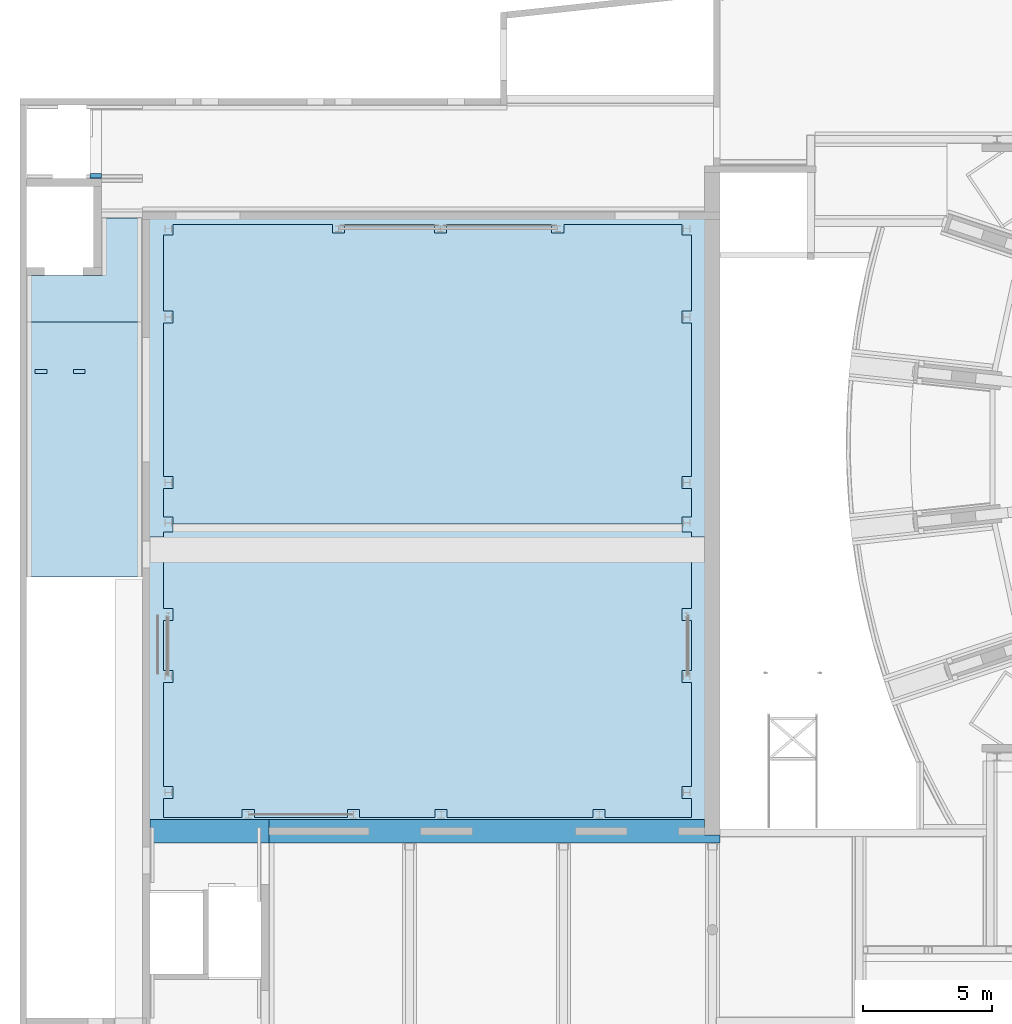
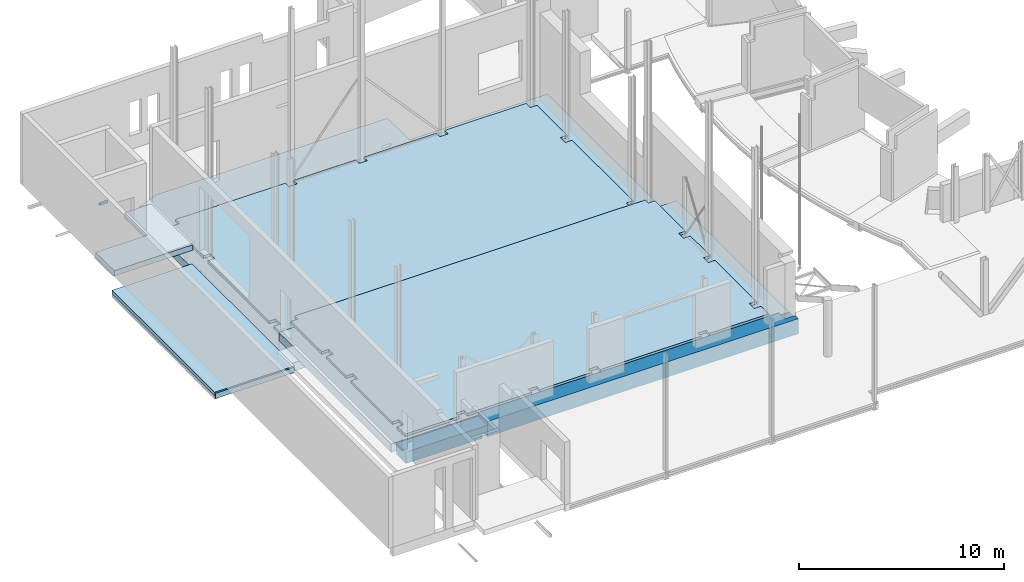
# One storey, part 22 of 37: 7 slabs, 3 beams, 2 openings.
"""IFC2X3 building model written with IfcOpenShell, lengths in millimetres."""

import ifcopenshell
import ifcopenshell.guid

model = None  # the IFC model being written
_history = None  # IfcOwnerHistory: only IFC2X3 demands one
_inside = {}  # id of a spatial element -> (the spatial element, [elements in it])
_under = {}  # id of a project, library or spatial element -> (it, [spatial elements below it])
_declared = {}  # id of a project -> (the project, [libraries it declares])
_typed = {}  # id of a type object -> (the type object, [elements of that type])
_made_of = {}  # id of a material, layer set ... -> (it, [elements and type objects made of it])


def new_model(schema):
    """Start an empty IFC model of exactly this schema.

    Asked for "IFC4X3", IfcOpenShell would pick the latest addendum, in which some entities
    have other attributes; the version numbers below select the first issue.
    IFC2X3 requires an IfcOwnerHistory on every rooted entity: one is made here for all.
    """
    global model, _history
    if schema == "IFC4X3":
        model = ifcopenshell.file(schema_version=(4, 3, 0, 0))
    else:
        model = ifcopenshell.file(schema=schema)
    _inside.clear()
    _under.clear()
    _declared.clear()
    _typed.clear()
    _made_of.clear()
    _history = None
    if model.schema == "IFC2X3":
        org = make("IfcOrganization", Name="unknown")
        user = make(
            "IfcPersonAndOrganization",
            ThePerson=make("IfcPerson", FamilyName="unknown"),
            TheOrganization=org,
        )
        app = make(
            "IfcApplication",
            ApplicationDeveloper=org,
            Version="unknown",
            ApplicationFullName="unknown",
            ApplicationIdentifier="unknown",
        )
        _history = make(
            "IfcOwnerHistory",
            OwningUser=user,
            OwningApplication=app,
            ChangeAction="ADDED",
            CreationDate=0,
        )
    return model


def make(cls, **values):
    """One entity of the class cls with the attributes given. An attribute that is None is left unset."""
    return model.create_entity(
        cls, **{name: value for name, value in values.items() if value is not None}
    )


def entity(cls, *values):
    """Any entity or typed value of the class cls, its attributes in the order of the schema. None: left unset."""
    e = model.create_entity(cls)
    for i, value in enumerate(values):
        if value is not None:
            e[i] = value
    return e


def rooted(cls, **values):
    """An entity with a GlobalId (a new one), such as an element, a storey or a relation."""
    return make(cls, GlobalId=ifcopenshell.guid.new(), OwnerHistory=_history, **values)


def si_unit(unit_type, name, prefix=None):
    """IfcSIUnit, for example si_unit("LENGTHUNIT", "METRE", prefix="MILLI")."""
    return make("IfcSIUnit", UnitType=unit_type, Prefix=prefix, Name=name)


def converted_unit(unit_type, name, factor, base, dimensions=None, offset=None):
    """IfcConversionBasedUnit, such as the inch: factor (a typed value) times the base unit."""
    return make(
        "IfcConversionBasedUnit"
        if offset is None
        else "IfcConversionBasedUnitWithOffset",
        ConversionOffset=offset,
        Dimensions=None
        if dimensions is None
        else entity("IfcDimensionalExponents", *dimensions),
        UnitType=unit_type,
        Name=name,
        ConversionFactor=make(
            "IfcMeasureWithUnit", ValueComponent=factor, UnitComponent=base
        ),
    )


def derived_unit(unit_type, elements):
    """IfcDerivedUnit: a product of units, each with its exponent."""
    return make(
        "IfcDerivedUnit",
        Elements=[
            make("IfcDerivedUnitElement", Unit=unit, Exponent=power)
            for unit, power in elements
        ],
        UnitType=unit_type,
    )


def assignment(units):
    """IfcUnitAssignment: the units of a project."""
    return None if units is None else make("IfcUnitAssignment", Units=units)


def point(xyz):
    """IfcCartesianPoint."""
    return None if xyz is None else make("IfcCartesianPoint", Coordinates=xyz)


def direction(xyz):
    """IfcDirection."""
    return None if xyz is None else make("IfcDirection", DirectionRatios=xyz)


def frame(location, z_axis=None, x_axis=None):
    """IfcAxis2Placement3D, a coordinate frame: its origin and axes. An axis left out is left unset."""
    return make(
        "IfcAxis2Placement3D",
        Location=point(location),
        Axis=direction(z_axis),
        RefDirection=direction(x_axis),
    )


def frame_2d(location, x_axis=None):
    """IfcAxis2Placement2D, a coordinate frame in the plane: its origin and x axis."""
    return make(
        "IfcAxis2Placement2D", Location=point(location), RefDirection=direction(x_axis)
    )


def origin():
    """The frame at (0, 0, 0) with its axes left unset."""
    return frame((0.0, 0.0, 0.0))


def origin_2d_with_axis():
    """The frame at (0, 0) in the plane with the x axis (1, 0) written out."""
    return frame_2d((0.0, 0.0), x_axis=(1.0, 0.0))


def place(relative_to, where):
    """IfcLocalPlacement: puts the frame where relative to a parent placement (None: the world)."""
    return make(
        "IfcLocalPlacement", PlacementRelTo=relative_to, RelativePlacement=where
    )


def context(
    kind, dimensions, precision=None, world=None, true_north=None, identifier=None
):
    """IfcGeometricRepresentationContext, for example the 3D "Model" context."""
    return make(
        "IfcGeometricRepresentationContext",
        ContextIdentifier=identifier,
        ContextType=kind,
        CoordinateSpaceDimension=dimensions,
        Precision=precision,
        WorldCoordinateSystem=world,
        TrueNorth=true_north,
    )


def subcontext(parent, identifier, kind, view, scale=None):
    """IfcGeometricRepresentationSubContext, for example "Body" below "Model"."""
    return make(
        "IfcGeometricRepresentationSubContext",
        ContextIdentifier=identifier,
        ContextType=kind,
        ParentContext=parent,
        TargetScale=scale,
        TargetView=view,
    )


def project(units=None, contexts=None):
    """IfcProject with its units and contexts."""
    return rooted(
        "IfcProject",
        Name="project",
        RepresentationContexts=contexts,
        UnitsInContext=assignment(units),
    )


def spatial(cls, under=None, at=None, **own):
    """A site, building, storey or space (cls), placed at a placement, below another one or the project."""
    s = rooted(cls, ObjectPlacement=at, **own)
    if under is not None:
        _under.setdefault(under.id(), (under, []))[1].append(s)
    return s


def polyline(points):
    """IfcPolyline through the points."""
    return make("IfcPolyline", Points=[point(p) for p in points])


def circle_curve(where, radius):
    """IfcCircle in the frame where."""
    return make("IfcCircle", Position=where, Radius=radius)


def parameter(value):
    """IfcParameterValue: where a trimmed curve begins or ends, as a parameter of its basis curve."""
    return model.create_entity("IfcParameterValue", value)


def trimmed(basis, trim1, trim2, sense, master):
    """IfcTrimmedCurve: the piece of a basis curve between two trims."""
    return make(
        "IfcTrimmedCurve",
        BasisCurve=basis,
        Trim1=trim1,
        Trim2=trim2,
        SenseAgreement=sense,
        MasterRepresentation=master,
    )


def segment(curve, same_sense, transition):
    """IfcCompositeCurveSegment."""
    return make(
        "IfcCompositeCurveSegment",
        Transition=transition,
        SameSense=same_sense,
        ParentCurve=curve,
    )


def composite_curve(segments, self_intersect=None):
    """IfcCompositeCurve: segments joined end to end."""
    return make("IfcCompositeCurve", Segments=segments, SelfIntersect=self_intersect)


def profile(cls, at=None, kind="AREA", **sizes):
    """A parametric profile (cls). Its sizes go by their IFC names, for example OverallWidth=200.0."""
    return make(cls, ProfileType=kind, Position=at, **sizes)


def rectangle(**sizes):
    """IfcRectangleProfileDef."""
    return profile("IfcRectangleProfileDef", **sizes)


def outline(outer, holes=None, kind="AREA"):
    """IfcArbitraryClosedProfileDef: a profile drawn as a closed curve; with holes, ...WithVoids."""
    if holes is None:
        return make("IfcArbitraryClosedProfileDef", ProfileType=kind, OuterCurve=outer)
    return make(
        "IfcArbitraryProfileDefWithVoids",
        ProfileType=kind,
        OuterCurve=outer,
        InnerCurves=holes,
    )


def extrude(swept, where, along, depth):
    """IfcExtrudedAreaSolid: the profile swept, set in the frame where, extruded along a direction by depth."""
    return make(
        "IfcExtrudedAreaSolid",
        SweptArea=swept,
        Position=where,
        ExtrudedDirection=direction(along),
        Depth=depth,
    )


def faces_of(points, faces, orient=None, outer=None):
    """IfcFace entities. A face is a list of loops; a loop is a list of indices into points, from 0.

    orient and outer hold one flag for each loop. By default every Orientation is true, the
    first loop of a face is its IfcFaceOuterBound and the others are IfcFaceBound.
    """
    made = []
    for i, loops in enumerate(faces):
        bounds = []
        for j, loop in enumerate(loops):
            is_outer = j == 0 if outer is None else outer[i][j]
            bounds.append(
                make(
                    "IfcFaceOuterBound" if is_outer else "IfcFaceBound",
                    Bound=make("IfcPolyLoop", Polygon=[points[k] for k in loop]),
                    Orientation=True if orient is None else orient[i][j],
                )
            )
        made.append(make("IfcFace", Bounds=bounds))
    return made


def faceted_brep(points, faces, orient=None, outer=None, voids=None):
    """IfcFacetedBrep: a solid bounded by flat faces; with voids (closed shells), ...WithVoids."""
    shared = [point(p) for p in points]
    hull = make("IfcClosedShell", CfsFaces=faces_of(shared, faces, orient, outer))
    if voids is None:
        return make("IfcFacetedBrep", Outer=hull)
    return make(
        "IfcFacetedBrepWithVoids",
        Outer=hull,
        Voids=[
            make(cls, CfsFaces=faces_of(shared, fs, o, b)) for cls, fs, o, b in voids
        ],
    )


def shape(context_of_items, identifier, shape_type, items):
    """IfcShapeRepresentation: the items that make up one representation, for example the "Body"."""
    return make(
        "IfcShapeRepresentation",
        ContextOfItems=context_of_items,
        RepresentationIdentifier=identifier,
        RepresentationType=shape_type,
        Items=items,
    )


def material(Name=None, Category=None):
    """IfcMaterial."""
    return make("IfcMaterial", Name=Name, Category=Category)


def layer(
    of_material, thickness, ventilated=None, Name=None, Category=None, Priority=None
):
    """IfcMaterialLayer: one layer of a wall or slab, of a material (None: an air gap)."""
    return make(
        "IfcMaterialLayer",
        Material=of_material,
        LayerThickness=thickness,
        IsVentilated=ventilated,
        Name=Name,
        Category=Category,
        Priority=Priority,
    )


def layer_set(layers, Name=None):
    """IfcMaterialLayerSet."""
    return make("IfcMaterialLayerSet", MaterialLayers=layers, LayerSetName=Name)


def layer_usage(for_layer_set, set_direction, sense, offset, extent=None):
    """IfcMaterialLayerSetUsage: how a layer set lies in its element."""
    return make(
        "IfcMaterialLayerSetUsage",
        ForLayerSet=for_layer_set,
        LayerSetDirection=set_direction,
        DirectionSense=sense,
        OffsetFromReferenceLine=offset,
        ReferenceExtent=extent,
    )


def made_of(thing, what):
    """Note that an element or type object is made of a material, layer set ...; save() writes the relation."""
    if what is not None:
        _made_of.setdefault(what.id(), (what, []))[1].append(thing)
    return thing


def type_object(cls, material=None, **own):
    """A type object (cls), such as IfcWallType, which elements share."""
    return made_of(rooted(cls, **own), material)


def element(
    cls,
    number,
    at=None,
    inside=None,
    cuts=None,
    type_object=None,
    material=None,
    context=None,
    identifier="Body",
    shape_type=None,
    held_by="IfcProductDefinitionShape",
    body=None,
    shapes=None,
    **own,
):
    """One element of the class cls, such as IfcWall. Its Tag is "e" and its number.

    at: its placement. inside: the storey or other place that contains it. cuts: it is an
    opening in that element (IfcRelVoidsElement). A single representation is given by context,
    identifier, shape_type and body (its items); several are given by shapes. held_by: the class
    of the entity that holds the representations. save() writes the other relations.
    """
    e = rooted(cls, Tag="e%d" % number, ObjectPlacement=at, **own)
    if body is not None:
        shapes = [shape(context, identifier, shape_type, body)]
    if shapes is not None:
        e.Representation = make(held_by, Representations=shapes)
    if inside is not None:
        _inside.setdefault(inside.id(), (inside, []))[1].append(e)
    if cuts is not None:
        rooted(
            "IfcRelVoidsElement", RelatingBuildingElement=cuts, RelatedOpeningElement=e
        )
    if type_object is not None:
        _typed.setdefault(type_object.id(), (type_object, []))[1].append(e)
    return made_of(e, material)


def aggregate(whole, parts):
    """IfcRelAggregates: a whole, such as a stair, and the parts it consists of."""
    return rooted("IfcRelAggregates", RelatingObject=whole, RelatedObjects=parts)


def save(model, path):
    """Write the relations noted so far, then the file.

    IfcRelAggregates (storeys below a building ...), IfcRelContainedInSpatialStructure (elements
    in a storey), IfcRelDefinesByType, IfcRelAssociatesMaterial and IfcRelDeclares: one each for
    every whole, place, type object, material and project.
    """
    for whole, parts in _under.values():
        aggregate(whole, parts)
    for where, things in _inside.values():
        rooted(
            "IfcRelContainedInSpatialStructure",
            RelatedElements=things,
            RelatingStructure=where,
        )
    for kind, things in _typed.values():
        rooted("IfcRelDefinesByType", RelatedObjects=things, RelatingType=kind)
    for what, things in _made_of.values():
        rooted("IfcRelAssociatesMaterial", RelatedObjects=things, RelatingMaterial=what)
    for by, libraries in _declared.values():
        rooted("IfcRelDeclares", RelatingContext=by, RelatedDefinitions=libraries)
    model.write(path)


model = new_model("IFC2X3")

# Units and contexts
model_context = context("Model", 3, precision=0.01, world=origin(), true_north=direction((6.12303176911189e-17, 1.0)))
body_context = subcontext(model_context, "Body", "Model", "MODEL_VIEW")
ifc_project = project(units=[si_unit("LENGTHUNIT", "METRE", prefix="MILLI"), si_unit("AREAUNIT", "SQUARE_METRE", prefix="MILLI"), si_unit("VOLUMEUNIT", "CUBIC_METRE"), converted_unit("PLANEANGLEUNIT", "DEGREE", entity("IfcRatioMeasure", 0.0174532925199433), si_unit("PLANEANGLEUNIT", "RADIAN"), dimensions=[0, 0, 0, 0, 0, 0, 0]), si_unit("MASSUNIT", "GRAM", prefix="KILO"), derived_unit("MASSDENSITYUNIT", [(si_unit("MASSUNIT", "GRAM", prefix="KILO"), 1), (si_unit("LENGTHUNIT", "METRE"), -3)]), derived_unit("MOMENTOFINERTIAUNIT", [(si_unit("LENGTHUNIT", "METRE"), 4)]), si_unit("TIMEUNIT", "SECOND"), si_unit("FREQUENCYUNIT", "HERTZ"), si_unit("THERMODYNAMICTEMPERATUREUNIT", "DEGREE_CELSIUS"), derived_unit("THERMALTRANSMITTANCEUNIT", [(si_unit("MASSUNIT", "GRAM", prefix="KILO"), 1), (si_unit("THERMODYNAMICTEMPERATUREUNIT", "KELVIN"), -1), (si_unit("TIMEUNIT", "SECOND"), -3)]), derived_unit("VOLUMETRICFLOWRATEUNIT", [(si_unit("LENGTHUNIT", "METRE"), 3), (si_unit("TIMEUNIT", "SECOND"), -1)]), si_unit("ELECTRICCURRENTUNIT", "AMPERE"), si_unit("ELECTRICVOLTAGEUNIT", "VOLT"), si_unit("POWERUNIT", "WATT"), si_unit("FORCEUNIT", "NEWTON", prefix="KILO"), si_unit("ILLUMINANCEUNIT", "LUX"), si_unit("LUMINOUSFLUXUNIT", "LUMEN"), si_unit("LUMINOUSINTENSITYUNIT", "CANDELA"), derived_unit("USERDEFINED", [(si_unit("MASSUNIT", "GRAM", prefix="KILO"), -1), (si_unit("LENGTHUNIT", "METRE"), -2), (si_unit("TIMEUNIT", "SECOND"), 3), (si_unit("LUMINOUSFLUXUNIT", "LUMEN"), 1)]), derived_unit("LINEARVELOCITYUNIT", [(si_unit("LENGTHUNIT", "METRE"), 1), (si_unit("TIMEUNIT", "SECOND"), -1)]), si_unit("PRESSUREUNIT", "PASCAL"), derived_unit("USERDEFINED", [(si_unit("LENGTHUNIT", "METRE"), -2), (si_unit("MASSUNIT", "GRAM", prefix="KILO"), 1), (si_unit("TIMEUNIT", "SECOND"), -2)]), derived_unit("LINEARFORCEUNIT", [(si_unit("MASSUNIT", "GRAM", prefix="KILO"), 1), (si_unit("LENGTHUNIT", "METRE"), 1), (si_unit("TIMEUNIT", "SECOND"), -2), (si_unit("LENGTHUNIT", "METRE"), -1)]), derived_unit("PLANARFORCEUNIT", [(si_unit("MASSUNIT", "GRAM", prefix="KILO"), 1), (si_unit("LENGTHUNIT", "METRE"), 1), (si_unit("TIMEUNIT", "SECOND"), -2), (si_unit("LENGTHUNIT", "METRE"), -2)])], contexts=[model_context])

# Site, building, storey
site_placement = place(None, origin())
site = spatial("IfcSite", under=ifc_project, at=site_placement, Name="Theater aan de Parade", CompositionType="ELEMENT")
building_placement = place(site_placement, origin())
building = spatial("IfcBuilding", under=site, at=building_placement, Name="Theater aan de Parade", CompositionType="ELEMENT")
storey_placement = place(building_placement, frame((0.0, 0.0, 5020.0)))
storey = spatial("IfcBuildingStorey", under=building, at=storey_placement, Name="01 eerste verdieping", CompositionType="ELEMENT", Elevation=5020.0)

# Beams
ifc_material_1 = material(Name="00_PBT_MAT_beton t.p.g._C30/37")
beam_type_1 = type_object("IfcBeamType", Name="28_PBT_SF_betonbalk:C30/37_900x980", PredefinedType="NOTDEFINED")
beam_1_placement = place(storey_placement, frame((15353.8570025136, 17111.308446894, -980.0)))
element("IfcBeam", 1, at=beam_1_placement, inside=storey, type_object=beam_type_1, material=ifc_material_1, Name="28_PBT_SF_betonbalk:C30/37_900x980", ObjectType="28_PBT_SF_betonbalk:C30/37_900x980", context=body_context, shape_type="Brep", body=[
    faceted_brep([(4600.0, 0.0, 520.0), (4600.0, 0.0, 230.0), (4600.0, 900.0, 230.0), (4600.0, 900.0, 680.0), (4600.0, 0.0, 680.0), (0.0, 900.0, 0.0), (0.0, 0.0, 0.0), (0.0, 0.0, 680.0), (0.0, 900.0, 680.0), (4300.0, 0.0, 0.0), (4300.0, 0.0, 230.0), (4300.0, 0.0, 680.0), (4300.0, 900.0, 0.0), (4300.0, 900.0, 230.0)], [[[0, 1, 2, 3, 4]], [[5, 6, 7, 8]], [[9, 10, 1, 0, 4, 11, 7, 6]], [[6, 5, 12, 9]], [[13, 12, 5, 8, 3, 2]], [[9, 12, 13, 10]], [[10, 13, 2, 1]], [[3, 8, 7, 11, 4]]]),
])
ifc_material_2 = material(Name="00_PBT_MAT_staal_S355")
beam_type_2 = type_object("IfcBeamType", Name="28_PBT_SF_staal_L-profiel:S355_L200x200x20", PredefinedType="NOTDEFINED")
beam_2_placement = place(storey_placement, frame((13009.3291773, 42926.7999997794, 0.0)))
element("IfcBeam", 2, at=beam_2_placement, inside=storey, type_object=beam_type_2, material=ifc_material_2, Name="28_PBT_SF_staal_L-profiel:S355_L200x200x20", ObjectType="28_PBT_SF_staal_L-profiel:S355_L200x200x20", context=body_context, shape_type="SweptSolid", body=[
    extrude(outline(composite_curve([segment(polyline([(-124.444444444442, -75.555555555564), (75.5555555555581, -75.555555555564)]), True, "CONTINUOUS"), segment(polyline([(75.5555555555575, -75.5555555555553), (75.5555555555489, 124.444444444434)]), True, "CONTINUOUS"), segment(polyline([(75.5555555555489, 124.444444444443), (64.5555555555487, 124.444444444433)]), True, "CONTINUOUS"), segment(trimmed(circle_curve(frame_2d((64.5555555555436, 115.444444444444), x_axis=(0.0, 1.0)), 8.99999999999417), [parameter(0.0)], [parameter(90.000000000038)], True, "PARAMETER"), True, "CONTINUOUS"), segment(polyline([(55.5555555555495, 115.444444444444), (55.5555555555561, -37.5555555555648)]), True, "CONTINUOUS"), segment(trimmed(circle_curve(frame_2d((37.5555555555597, -37.5555555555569), x_axis=(1.0, 0.0)), 17.9999999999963), [parameter(269.999999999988)], [parameter(0.0)], True, "PARAMETER"), False, "CONTINUOUS"), segment(polyline([(37.5555555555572, -55.5555555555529), (-115.444444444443, -55.5555555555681)]), True, "CONTINUOUS"), segment(trimmed(circle_curve(frame_2d((-115.444444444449, -64.5555555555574), x_axis=(0.0, 1.0)), 8.99999999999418), [parameter(0.0)], [parameter(90.000000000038)], True, "PARAMETER"), True, "CONTINUOUS"), segment(polyline([(-124.444444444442, -64.5555555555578), (-124.444444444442, -75.555555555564)]), True, "CONTINUOUS")], self_intersect=False)), frame((0.0, 18.7555555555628, -349.444444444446), z_axis=(1.0, 0.0, 0.0), x_axis=(0.0, 0.0, -1.0)), (0.0, 0.0, 1.0), 445.527825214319),
])
beam_type_3 = type_object("IfcBeamType", Name="28_PBT_SF_betonbalk:C30/37_900x900", PredefinedType="NOTDEFINED")
beam_3_placement = place(storey_placement, frame((19953.857002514, 17111.3084468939, -980.0)))
element("IfcBeam", 3, at=beam_3_placement, inside=storey, type_object=beam_type_3, material=ifc_material_1, Name="28_PBT_SF_betonbalk:C30/37_900x900", ObjectType="28_PBT_SF_betonbalk:C30/37_900x900", context=body_context, shape_type="Brep", body=[
    faceted_brep([(0.0, 900.0, 900.0), (0.0, 900.0, 0.0), (0.0, 0.0, 0.0), (0.0, 0.0, 520.0), (0.0, 0.0, 900.0), (17500.0011275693, 0.0, 900.0), (17500.0011275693, 300.0, 900.0), (16900.0011275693, 300.0, 900.0), (16900.0011275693, 900.0, 900.0), (17500.0011275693, 0.0, 0.0), (17500.0011275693, 0.0, 520.0), (17500.0011275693, 0.0, 840.0), (17500.0011275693, 900.0, 0.0), (16900.0011275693, 900.0, 730.0), (17500.0011275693, 900.0, 730.0), (17500.0011275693, 538.935928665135, 730.0), (17500.0011275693, 300.0, 730.0), (16900.0011275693, 300.0, 730.0)], [[[0, 1, 2, 3, 4]], [[0, 4, 5, 6, 7, 8]], [[5, 4, 3, 2, 9, 10, 11]], [[2, 1, 12, 9]], [[1, 0, 8, 13, 14, 12]], [[9, 12, 14, 15, 16, 6, 5, 11, 10]], [[8, 7, 17, 13]], [[7, 6, 16, 17]], [[17, 16, 15, 14, 13]]]),
])

# Slabs
ifc_layer_1 = layer(ifc_material_1, 500.0)
ifc_layer_set_1 = layer_set([ifc_layer_1], Name="Floor:28_PBT_FL_beton t.p.g._d=500_C30/37")
ifc_layer_usage_1 = layer_usage(ifc_layer_set_1, "AXIS3", "POSITIVE", 0.0)
slab_type_1 = type_object("IfcSlabType", Name="Floor:28_PBT_FL_beton t.p.g._d=500_C30/37", PredefinedType="FLOOR", material=ifc_layer_set_1)
slab_1_placement = place(storey_placement, origin())
element("IfcSlab", 4, at=slab_1_placement, inside=storey, type_object=slab_type_1, material=ifc_layer_usage_1, Name="Floor:28_PBT_FL_beton t.p.g._d=500_C30/37", ObjectType="Floor:28_PBT_FL_beton t.p.g._d=500_C30/37", PredefinedType="FLOOR", context=body_context, shape_type="SweptSolid", body=[
    extrude(outline(polyline([(-10533.3732265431, -10805.8382510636), (4546.88070444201, -10805.8382510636), (5193.31227361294, -9207.25883173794), (5193.31227361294, 3815.30474642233), (3066.62060070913, 3815.30474642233), (3066.6206007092, 11594.1629205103), (-10533.3732265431, 11594.1629205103), (-10533.3732265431, -10805.8382510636)])), frame((25859.6952535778, 38506.6877263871, -1550.0), z_axis=(0.0, 0.0, -1.0), x_axis=(0.0, 1.0, 0.0)), (0.0, 0.0, 1.0), 500.0),
])
ifc_layer_usage_2 = layer_usage(ifc_layer_set_1, "AXIS3", "POSITIVE", 0.0)
slab_type_2 = type_object("IfcSlabType", Name="Floor:28_PBT_FL_beton t.p.g._d=500_C30/37", PredefinedType="FLOOR", material=ifc_layer_set_1)
slab_2_placement = place(storey_placement, origin())
element("IfcSlab", 5, at=slab_2_placement, inside=storey, type_object=slab_type_2, material=ifc_layer_usage_2, Name="Floor:28_PBT_FL_beton t.p.g._d=500_C30/37", ObjectType="Floor:28_PBT_FL_beton t.p.g._d=500_C30/37", PredefinedType="FLOOR", context=body_context, shape_type="SweptSolid", body=[
    extrude(rectangle(XDim=10962.00605295, YDim=22400.0011715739, at=frame_2d((9.09494701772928e-13, 0.0), x_axis=(1.0, 0.0))), frame((26253.8575883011, 23492.311473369, -250.0), z_axis=(0.0, 0.0, -1.0), x_axis=(0.0, 1.0, 0.0)), (0.0, 0.0, 1.0), 500.0),
])
ifc_material_3 = material(Name="00_PBT_MAT_systeemvloer")
ifc_layer_2 = layer(ifc_material_3, 320.0)
ifc_layer_set_2 = layer_set([ifc_layer_2], Name="Floor:28_PBT_FL_kanaalplaat_d=320")
ifc_layer_usage_3 = layer_usage(ifc_layer_set_2, "AXIS3", "POSITIVE", 0.0)
slab_type_3 = type_object("IfcSlabType", Name="Floor:28_PBT_FL_kanaalplaat_d=320", PredefinedType="FLOOR", material=ifc_layer_set_2)
slab_3_placement = place(storey_placement, origin())
element("IfcSlab", 6, at=slab_3_placement, inside=storey, type_object=slab_type_3, material=ifc_layer_usage_3, Name="Floor:28_PBT_FL_kanaalplaat_d=320", ObjectType="Floor:28_PBT_FL_kanaalplaat_d=320", PredefinedType="FLOOR", context=body_context, shape_type="SweptSolid", body=[
    extrude(outline(polyline([(-1948.8931091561, -2433.49629919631), (-132.207608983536, -2433.49629919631), (-132.207608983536, 467.248149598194), (2081.10071813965, 467.248149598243), (2081.10071813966, 1966.2481495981), (-1948.8931091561, 1966.24814959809), (-1948.8931091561, -2433.49629919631)])), frame((13037.608852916, 39252.2076089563, -80.0), z_axis=(0.0, 0.0, -1.0), x_axis=(0.0, 1.0, 0.0)), (0.0, 0.0, 1.0), 320.0),
])
ifc_layer_3 = layer(ifc_material_1, 150.0)
ifc_layer_set_3 = layer_set([ifc_layer_3], Name="Floor:28_PBT_FL_beton t.p.g._d=150_C30/37")
ifc_layer_usage_4 = layer_usage(ifc_layer_set_3, "AXIS3", "POSITIVE", 0.0)
slab_type_4 = type_object("IfcSlabType", Name="Floor:28_PBT_FL_beton t.p.g._d=150_C30/37", PredefinedType="FLOOR", material=ifc_layer_set_3)
slab_4_placement = place(storey_placement, origin())
element("IfcSlab", 7, at=slab_4_placement, inside=storey, type_object=slab_type_4, material=ifc_layer_usage_4, Name="Floor:28_PBT_FL_beton t.p.g._d=150_C30/37", ObjectType="Floor:28_PBT_FL_beton t.p.g._d=150_C30/37", PredefinedType="FLOOR", context=body_context, shape_type="SweptSolid", body=[
    extrude(outline(polyline([(1876.78381027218, -10020.8340052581), (3801.78381027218, -10020.8340052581), (3801.78381027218, -9640.83400457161), (4271.78381027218, -9640.83400457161), (4271.78381027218, -10020.8340052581), (7246.80612103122, -10020.8340052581), (7246.80612103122, -9640.83400457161), (7546.80564372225, -9640.83400457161), (7546.80564372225, 10079.1671223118), (7246.80612103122, 10079.1671223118), (7246.80612103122, 10459.1671223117), (4271.78381027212, 10459.1671223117), (4271.78381027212, 10079.1671223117), (3801.78381027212, 10079.1671223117), (3801.78381027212, 10459.1671223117), (1876.78381027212, 10459.1671223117), (1876.78381027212, 10079.1671223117), (1406.78381027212, 10079.1671223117), (1406.78381027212, 10459.1671223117), (-2623.21618972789, 10459.1671223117), (-2623.21618972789, 10079.1671223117), (-3093.21618972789, 10079.1671223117), (-3093.21618972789, 10459.1671223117), (-3840.20262322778, 10459.1671223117), (-3840.20262322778, 7110.66718422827), (-3530.20262322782, 7110.66718422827), (-3530.20262322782, 6640.66718422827), (-3840.20262322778, 6640.66718422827), (-3840.20262322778, 985.667176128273), (-3530.2026232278, 985.667176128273), (-3530.2026232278, 515.667176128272), (-3840.20262322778, 515.667176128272), (-3840.20262322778, -2416.83282797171), (-3530.20262322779, -2416.83282797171), (-3530.20262322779, -2886.83282797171), (-3840.20262322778, -2886.83282797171), (-3840.20262322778, -6492.83400197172), (-3530.20262322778, -6492.83400197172), (-3530.20262322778, -6962.83400197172), (-3840.20262322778, -6962.83400197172), (-3840.20262322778, -10020.8340052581), (-3093.21618972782, -10020.8340052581), (-3093.21618972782, -9640.83400457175), (-2623.21618972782, -9640.83400457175), (-2623.21618972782, -10020.8340052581), (1406.78381027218, -10020.8340052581), (1406.78381027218, -9640.83400457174), (1876.78381027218, -9640.83400457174), (1876.78381027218, -10020.8340052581)])), frame((25884.6910077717, 21926.5084882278, 0.0), z_axis=(0.0, 0.0, -1.0), x_axis=(0.0, 1.0, 0.0)), (0.0, 0.0, 1.0), 150.000000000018),
])
ifc_layer_usage_5 = layer_usage(ifc_layer_set_3, "AXIS3", "POSITIVE", 0.0)
slab_type_5 = type_object("IfcSlabType", Name="Floor:28_PBT_FL_beton t.p.g._d=150_C30/37", PredefinedType="FLOOR", material=ifc_layer_set_3)
slab_5_placement = place(storey_placement, origin())
element("IfcSlab", 8, at=slab_5_placement, inside=storey, type_object=slab_type_5, material=ifc_layer_usage_5, Name="Floor:28_PBT_FL_beton t.p.g._d=150_C30/37", ObjectType="Floor:28_PBT_FL_beton t.p.g._d=150_C30/37", PredefinedType="FLOOR", context=body_context, shape_type="SweptSolid", body=[
    extrude(outline(polyline([(-6798.51716538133, -10450.0003436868), (-5700.49496608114, -10450.0003436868), (-5700.49496608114, -10070.0003430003), (-5230.49496608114, -10070.0003430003), (-5230.49496608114, -10450.0003436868), (713.50486294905, -10450.0003436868), (713.50486294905, -10070.0003430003), (1183.50486294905, -10070.0003430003), (1183.50486294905, -10450.0003436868), (4136.49869219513, -10450.0003436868), (4136.49869219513, -10070.0003430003), (4541.4988632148, -10070.0003430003), (4541.4988632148, -3895.00051401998), (4201.49886321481, -3895.00051401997), (4201.49886321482, -3425.00051401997), (4541.4988632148, -3425.00051401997), (4541.4988632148, 54.9994859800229), (4201.4988632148, 54.9994859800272), (4201.49886321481, 524.999485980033), (4541.4988632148, 524.999485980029), (4541.4988632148, 4604.99948598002), (4201.49886321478, 4604.99948598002), (4201.49886321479, 5074.99948598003), (4541.4988632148, 5074.99948598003), (4541.4988632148, 9650.00078388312), (4136.49886321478, 9650.00078388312), (4136.49886321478, 10030.000783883), (1183.50486294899, 10030.000783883), (1183.50486294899, 9650.00078388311), (713.504862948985, 9650.00078388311), (713.504862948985, 10030.000783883), (-5230.4949660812, 10030.000783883), (-5230.4949660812, 9650.0007838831), (-5700.49496608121, 9650.0007838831), (-5700.49496608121, 10030.000783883), (-6798.51716538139, 10030.000783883), (-6798.51716538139, 9650.0007838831), (-7378.49485462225, 9650.0007838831), (-7378.49485462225, -10070.0003430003), (-6798.51716538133, -10070.0003430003), (-6798.51716538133, -10450.0003436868)])), frame((26313.8573462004, 36551.8094638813, -1300.0), z_axis=(0.0, 0.0, -1.0), x_axis=(0.0, 1.0, 0.0)), (0.0, 0.0, 1.0), 150.000000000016),
])

# Slab, openings
ifc_layer_usage_6 = layer_usage(ifc_layer_set_2, "AXIS3", "POSITIVE", 0.0)
slab_type_6 = type_object("IfcSlabType", Name="Floor:28_PBT_FL_kanaalplaat_d=320", PredefinedType="FLOOR", material=ifc_layer_set_2)
slab_6_placement = place(storey_placement, frame((10604.1125537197, 27419.3270746, -1700.0)))
slab_6 = element("IfcSlab", 9, at=slab_6_placement, inside=storey, type_object=slab_type_6, material=ifc_layer_usage_6, Name="Floor:28_PBT_FL_kanaalplaat_d=320", ObjectType="Floor:28_PBT_FL_kanaalplaat_d=320", PredefinedType="FLOOR", context=body_context, shape_type="SweptSolid", body=[
    extrude(rectangle(XDim=10008.9874252, YDim=4399.74444879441, at=frame_2d((0.0, 0.0), x_axis=(0.0, 1.0))), frame((2199.8722243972, 5004.49371259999, 320.0), z_axis=(0.0, 0.0, -1.0), x_axis=(-1.0, 0.0, 0.0)), (0.0, 0.0, 1.0), 320.0),
])
opening_1_placement = place(slab_6_placement, frame((2000.88744628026, 7965.0, 320.0)))
element("IfcOpeningElement", 10, at=opening_1_placement, cuts=slab_6, Name="Floor:28_PBT_FL_kanaalplaat_d=320:2", ObjectType="Opening", context=body_context, shape_type="SweptSolid", body=[
    extrude(rectangle(XDim=150.000000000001, YDim=449.999999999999, at=origin_2d_with_axis()), frame((0.0, 0.0, 0.0), z_axis=(0.0, 0.0, 1.0), x_axis=(0.0, 1.0, 0.0)), (0.0, 0.0, -1.0), 320.0),
])
opening_2_placement = place(slab_6_placement, frame((515.887446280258, 7965.0, 320.0)))
element("IfcOpeningElement", 11, at=opening_2_placement, cuts=slab_6, Name="Floor:28_PBT_FL_kanaalplaat_d=320:3", ObjectType="Opening", context=body_context, shape_type="SweptSolid", body=[
    extrude(rectangle(XDim=449.999999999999, YDim=150.000000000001, at=origin_2d_with_axis()), frame((0.0, 0.0, 0.0), z_axis=(0.0, 0.0, -1.0), x_axis=(-1.0, 0.0, 0.0)), (0.0, 0.0, 1.0), 320.0),
])

# Slab
ifc_layer_4 = layer(ifc_material_1, 400.0)
ifc_layer_set_4 = layer_set([ifc_layer_4], Name="Floor:28_PBT_FL_druklaag_d=80 (=400)_C30/37")
ifc_layer_usage_7 = layer_usage(ifc_layer_set_4, "AXIS3", "POSITIVE", 0.0)
slab_type_7 = type_object("IfcSlabType", Name="Floor:28_PBT_FL_druklaag_d=80 (=400)_C30/37", PredefinedType="FLOOR", material=ifc_layer_set_4)
slab_7_placement = place(storey_placement, origin())
element("IfcSlab", 12, at=slab_7_placement, inside=storey, type_object=slab_type_7, material=ifc_layer_usage_7, Name="Floor:28_PBT_FL_druklaag_d=80 (=400)_C30/37", ObjectType="Floor:28_PBT_FL_druklaag_d=80 (=400)_C30/37", PredefinedType="FLOOR", context=body_context, shape_type="SweptSolid", body=[
    extrude(outline(composite_curve([segment(polyline([(-243.874999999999, -2249.87222439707), (-18.8750000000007, -2249.87222439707)]), True, "CONTINUOUS"), segment(polyline([(-18.8750000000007, -2249.87222439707), (-18.8750000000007, -2238.87222439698)]), True, "CONTINUOUS"), segment(trimmed(circle_curve(frame_2d((-9.87500000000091, -2238.87222439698), x_axis=(0.0, 1.0)), 9.0), [parameter(0.0)], [parameter(90.0000000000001)], True, "PARAMETER"), False, "CONTINUOUS"), segment(polyline([(-9.87500000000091, -2229.87222439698), (143.124999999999, -2229.87222439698)]), True, "CONTINUOUS"), segment(trimmed(circle_curve(frame_2d((143.124999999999, -2211.87222439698), x_axis=(0.0, 1.0)), 18.0), [parameter(180.000000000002)], [parameter(226.23825730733)], True, "PARAMETER"), True, "CONTINUOUS"), segment(polyline([(156.125000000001, -2224.32212399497), (156.125000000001, -2199.87222439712)]), True, "CONTINUOUS"), segment(polyline([(156.125000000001, -2199.87222439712), (-163.874999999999, -2199.87222439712)]), True, "CONTINUOUS"), segment(polyline([(-163.874999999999, -2199.87222439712), (-163.874999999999, 2199.87222439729)]), True, "CONTINUOUS"), segment(polyline([(-163.874999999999, 2199.87222439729), (156.125000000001, 2199.87222439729)]), True, "CONTINUOUS"), segment(polyline([(156.125000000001, 2199.87222439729), (156.125000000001, 2224.32212399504)]), True, "CONTINUOUS"), segment(trimmed(circle_curve(frame_2d((143.124999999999, 2211.87222439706), x_axis=(0.0, -1.0)), 18.0), [parameter(133.76174269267)], [parameter(179.999999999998)], True, "PARAMETER"), True, "CONTINUOUS"), segment(polyline([(143.124999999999, 2229.87222439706), (-9.87500000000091, 2229.87222439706)]), True, "CONTINUOUS"), segment(trimmed(circle_curve(frame_2d((-9.87500000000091, 2238.87222439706), x_axis=(0.0, -1.0)), 9.0), [parameter(270.0)], [parameter(0.0)], True, "PARAMETER"), False, "CONTINUOUS"), segment(polyline([(-18.8750000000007, 2238.87222439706), (-18.8750000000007, 2249.87222439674)]), True, "CONTINUOUS"), segment(polyline([(-18.8750000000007, 2249.87222439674), (-243.874999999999, 2249.87222439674)]), True, "CONTINUOUS"), segment(polyline([(-243.874999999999, 2249.87222439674), (-243.874999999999, -2249.87222439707)]), True, "CONTINUOUS")], self_intersect=False)), frame((12803.984778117, 27419.3270746, -1543.875), z_axis=(0.0, 1.0, 0.0), x_axis=(0.0, 0.0, -1.0)), (0.0, 0.0, 1.0), 10008.9874252),
])

save(model, "model.ifc")
